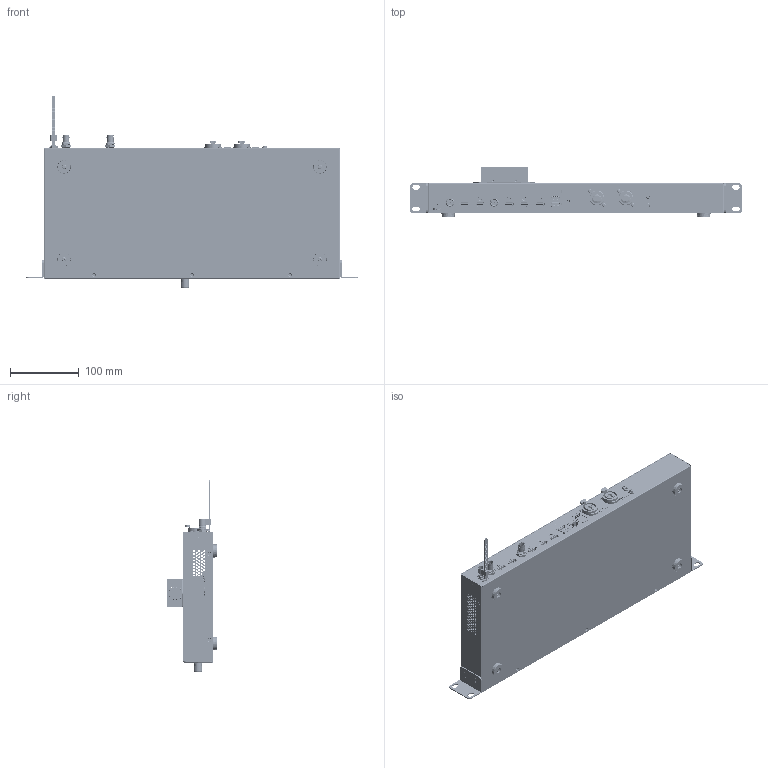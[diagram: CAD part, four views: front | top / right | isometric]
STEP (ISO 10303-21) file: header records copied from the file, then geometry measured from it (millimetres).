
FILE_DESCRIPTION((''),'2;1');
FILE_NAME('00-ASSY-BODY-LC100_ASM','2021-11-02T',('Wade.Lin'),('Wistron - The Product Development Company'),'PRO/ENGINEER BY PARAMETRIC TECHNOLOGY CORPORATION, 2006460','PRO/ENGINEER BY PARAMETRIC TECHNOLOGY CORPORATION, 2006460','');
FILE_SCHEMA(('AUTOMOTIVE_DESIGN { 1 0 10303 214 1 1 1 1 }'));
Length unit declared in the file: millimetre
Products named in the file (125): MAIN-BD-LC100; SDI-HB256P0N03-R1; 3700026-50_CONHDMI-19SMGS; 483920003-USB30; 4GP-RJ45-RB1-1D6BAM1A_16_1; PHANTOM-POWER-LC100; VL06-3X1_12_1; KEYPAD-CONN-LC100; DC-IN-CONN-LC100; NCJ5FI-H; FULL-SD-CONNECTOR; FULL-SD-CARD; 877011001; DC-JACK_PTC-120; MANIFOLD_SOLID_BREP_124540_1_1; MANIFOLD_SOLID_BREP_137858_6_1; MANIFOLD_SOLID_BREP_141785_1_1; UA-F08R0D_ASM_1_ASM_1_ASM; PHONE-JACK-PJD-035-16A; LED-3Y; 3080031-50-LED_L-7104ID; SKHHLMA010; 484060001; USB-TYPA-A-DUAL-PS753; AUDIO-DUAL; CON-12PIN-1_25P-ST-3750015-50; Y_CONN_POWER_SKT_073_10A_1_5; MANIFOLD_SOLID_BREP_146770; MANIFOLD_SOLID_BREP_21616; MANIFOLD_SOLID_BREP_21704; MANIFOLD_SOLID_BREP_21792; 00-ASSY-BODY-LC100-1222_16_ASM; TACT1_15; PRT0006; USB2-FEMALE-DIP_8; USB-X3_ASM_7_ASM; 90-POWER_5; MANIFOLD_SOLID_BREP_34188; MANIFOLD_SOLID_BREP_36174; 3G-BNC-MOLEX_23_ASM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
Assembly tree (243 placements, depth 7):
  00-ASSY-BODY-LC100_ASM
    IO-BD-LC100_ASM
      MAIN-BD-LC100
      SDI-HB256P0N03-R1  x2
      3700026-50_CONHDMI-19SMGS  x5
      483920003-USB30  x5
      4GP-RJ45-RB1-1D6BAM1A_16_1
      PHANTOM-POWER-LC100  x2
      VL06-3X1_12_1
      KEYPAD-CONN-LC100
      DC-IN-CONN-LC100
      NCJ5FI-H  x2
      FULL-SD-CONNECTOR
      FULL-SD-CARD
      877011001
      DC-JACK_PTC-120
      UA-F08R0D_ASM_1_ASM_1_ASM
        MANIFOLD_SOLID_BREP_124540_1_1
        MANIFOLD_SOLID_BREP_137858_6_1
        MANIFOLD_SOLID_BREP_141785_1_1
      PHONE-JACK-PJD-035-16A  x2
      LED-3Y  x2
      3080031-50-LED_L-7104ID  x2
      SKHHLMA010  x2
      484060001
      USB-TYPA-A-DUAL-PS753
      AUDIO-DUAL
      CON-12PIN-1_25P-ST-3750015-50
      Y_CONN_POWER_SKT_073_10A_1_5
      MANIFOLD_SOLID_BREP_146770
      LC-100-01192021_ASM
        ASM0001_ASM_15_ASM
          00-ASSY-BODY-LC100-1222_16_ASM
            MANIFOLD_SOLID_BREP_21616
            MANIFOLD_SOLID_BREP_21704
            MANIFOLD_SOLID_BREP_21792
          TACT1_15  x2
          USB-X3_ASM_7_ASM
            PRT0006  x2
            USB2-FEMALE-DIP_8
          90-POWER_5
          3G-BNC-MOLEX_23_ASM
            MANIFOLD_SOLID_BREP_34188
            MANIFOLD_SOLID_BREP_36174
          HDMIX2_ASM_1_ASM
            ABA-HDM-020_ASM_11_ASM  x2
              2_L_ANY_1
              1_L_ANY_1
              SHELL_3NEW_ANY_10
              2_R_ANY_1
              1_M_ANY_1
              2_M_ANY_1
              3_SPACER_ANY_1
              1_R_ANY_1
              PLASTIC_MAIN_ANY_1
          HDMIX4_ASM_3_ASM
            ABA-HDM-020_ASM_11_ASM  x3
              2_L_ANY_1
              1_L_ANY_1
              SHELL_3NEW_ANY_10
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Bounding box: 482.6 x 72.35 x 279.09 mm (x, y, z)
Volume: 1539317.9 mm3; surface area: 1189805.7 mm2
Topology: 339 solids, 359 shells, 35880 faces, 100022 edges, 65454 vertices
Faces by surface type: plane 23620, cylinder 10813, torus 511, cone 466, bspline 385, sphere 68, extrusion 17
Entity records: 635386 total; most frequent: CARTESIAN_POINT 113655, ORIENTED_EDGE 96548, DIRECTION 93917, EDGE_CURVE 48274, VECTOR 34811, LINE 34794, VERTEX_POINT 31815, AXIS2_PLACEMENT_3D 29553
